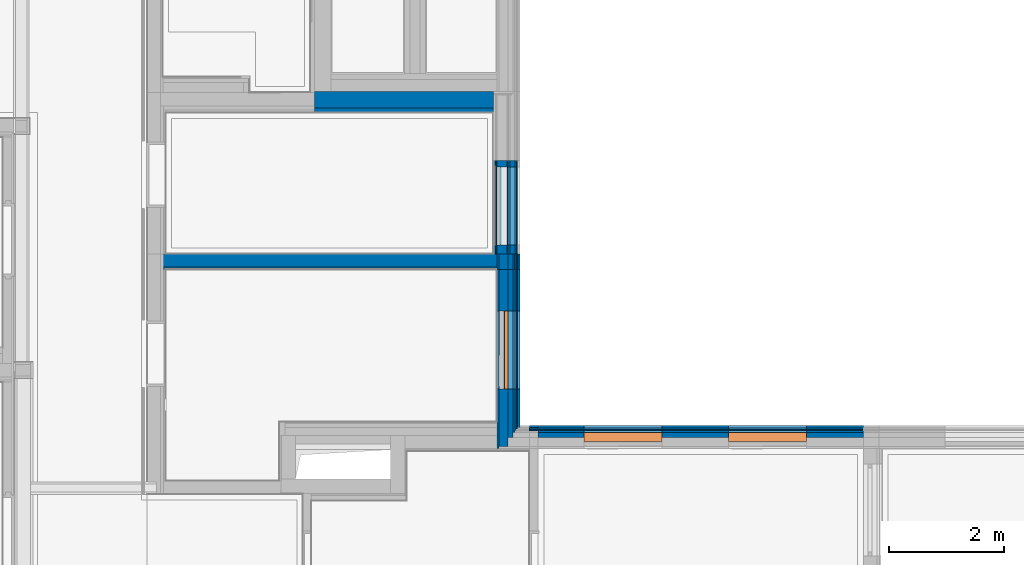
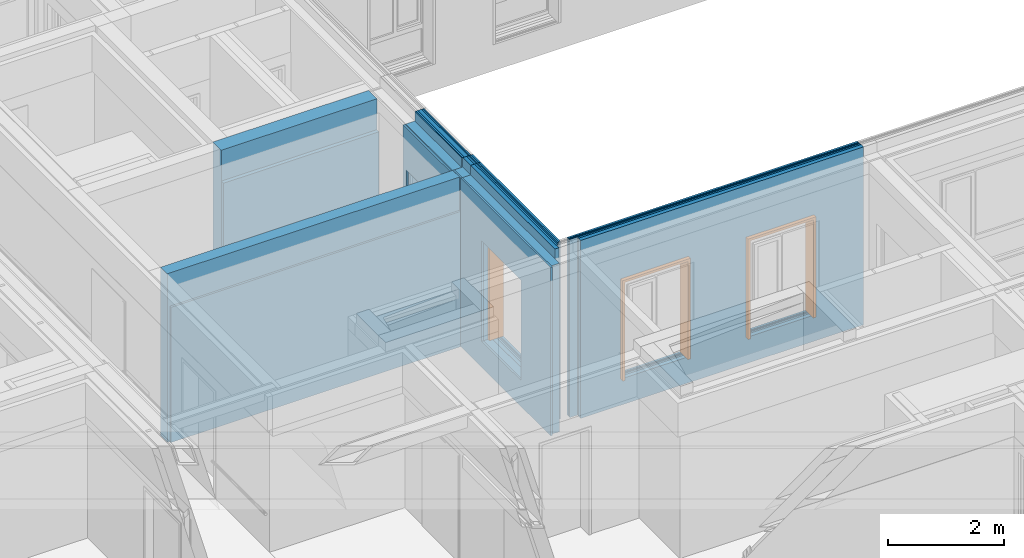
# One storey, part 28 of 222: 34 walls, 3 proxies, 25 openings.
"""IFC4 building model written with IfcOpenShell, lengths in metres."""

from ifc_helpers import new_model, entity, si_unit, converted_unit, derived_unit, frame, frame_2d, origin, origin_with_axes, place, context, subcontext, project, spatial, polyline, rectangle, outline, extrude, faceted_brep, material, element, fill, save


model = new_model("IFC4")

# Units and contexts
model_context = context("Model", 3, precision=1e-05, world=origin())
body_context = subcontext(model_context, "Body", "Model", "MODEL_VIEW")
ifc_project = project(units=[si_unit("LENGTHUNIT", "METRE"), si_unit("AREAUNIT", "SQUARE_METRE"), si_unit("VOLUMEUNIT", "CUBIC_METRE"), si_unit("MASSUNIT", "GRAM", prefix="KILO"), converted_unit("PLANEANGLEUNIT", "DEGREE", entity("IfcPlaneAngleMeasure", 0.0174532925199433), si_unit("PLANEANGLEUNIT", "RADIAN"), dimensions=[0, 0, 0, 0, 0, 0, 0]), derived_unit("THERMALTRANSMITTANCEUNIT", [(si_unit("POWERUNIT", "WATT"), 1), (si_unit("THERMODYNAMICTEMPERATUREUNIT", "KELVIN"), -1), (si_unit("LENGTHUNIT", "METRE"), -2)]), derived_unit("VOLUMETRICFLOWRATEUNIT", [(si_unit("LENGTHUNIT", "METRE"), 3), (converted_unit("TIMEUNIT", "hour", entity("IfcTimeMeasure", 3600.0), si_unit("TIMEUNIT", "SECOND"), dimensions=[0, 0, 1, 0, 0, 0, 0]), -1), (si_unit("LENGTHUNIT", "METRE"), -1)])], contexts=[model_context])

# Site, building, storey
site_placement = place(None, origin())
site = spatial("IfcSite", under=ifc_project, at=site_placement, Name="Psychiatrie Neubau Wunstorf", CompositionType="ELEMENT")
building_placement = place(site_placement, origin())
building = spatial("IfcBuilding", under=site, at=building_placement, Name="Neubau H2 Stationsgebäude", CompositionType="ELEMENT")
storey_placement = place(building_placement, frame((0.0, 0.0, 3.6)))
storey = spatial("IfcBuildingStorey", under=building, at=storey_placement, Name="H2 Ebene +1", CompositionType="ELEMENT", Elevation=3.6)

# Walls
ifc_material_1 = material(Name="WA-KL")
wall_1_placement = place(storey_placement, frame((44.5, 10.4259996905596, 0.0), z_axis=(0.0, 0.0, 1.0), x_axis=(1.0, 2.42531920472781e-14, 0.0)))
element("IfcWall", 1, at=wall_1_placement, inside=storey, material=ifc_material_1, Name="Konterlattung", context=body_context, shape_type="SweptSolid", body=[
    extrude(rectangle(XDim=0.15, YDim=0.024, at=frame_2d((0.075, 0.012), x_axis=(1.0, 0.0))), origin_with_axes(), (0.0, 0.0, 1.0), 3.75),
])
ifc_material_2 = material(Name="WA-TL")
wall_2_placement = place(storey_placement, frame((44.5, 10.4499996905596, 0.0), z_axis=(0.0, 0.0, 1.0), x_axis=(1.0, 2.42531920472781e-14, 0.0)))
element("IfcWall", 2, at=wall_2_placement, inside=storey, material=ifc_material_2, Name="Traglattung", context=body_context, shape_type="SweptSolid", body=[
    extrude(rectangle(XDim=0.15, YDim=0.024, at=frame_2d((0.075, 0.012), x_axis=(1.0, 0.0))), origin_with_axes(), (0.0, 0.0, 1.0), 3.75),
])
ifc_material_3 = material(Name="WA-HS")
wall_3_placement = place(storey_placement, frame((44.5, 10.4739996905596, 0.0), z_axis=(0.0, 0.0, 1.0), x_axis=(1.0, 2.42531920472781e-14, 0.0)))
element("IfcWall", 3, at=wall_3_placement, inside=storey, material=ifc_material_3, Name="Holzschindel", context=body_context, shape_type="SweptSolid", body=[
    extrude(rectangle(XDim=0.15, YDim=0.042, at=frame_2d((0.075, 0.021), x_axis=(1.0, 0.0))), origin_with_axes(), (0.0, 0.0, 1.0), 3.75),
])

# Wall, opening
ifc_material_4 = material(Name="WA-LB")
wall_4_placement = place(storey_placement, frame((43.9390000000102, 13.2174966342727, 0.0), z_axis=(0.0, 0.0, 1.0), x_axis=(2.34443846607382e-15, -1.0, 0.0)))
wall_4 = element("IfcWall", 4, at=wall_4_placement, inside=storey, material=ifc_material_4, context=body_context, shape_type="SweptSolid", body=[
    extrude(rectangle(XDim=3.10349694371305, YDim=0.036, at=frame_2d((1.55174847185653, 0.018), x_axis=(1.0, 0.0))), origin_with_axes(), (0.0, 0.0, 1.0), 3.55),
])
opening_1_placement = place(wall_4_placement, frame((2.07249694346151, 0.0360000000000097, 0.55), z_axis=(0.0, -1.0, 0.0), x_axis=(0.0, 0.0, 1.0)))
element("IfcOpeningElement", 5, at=opening_1_placement, cuts=wall_4, Name="Fensteröffnung", ObjectType="Opening", context=body_context, shape_type="SweptSolid", body=[
    extrude(outline(polyline([(2.115, 1.35), (2.115, 0.0), (0.0, 0.0), (0.0, 1.35), (2.115, 1.35)])), origin_with_axes(), (0.0, 0.0, 1.0), 0.036),
])

ifc_material_5 = material(Name="WA-DL")
wall_5_placement = place(storey_placement, frame((43.9750000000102, 13.2174966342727, 0.0), z_axis=(0.0, 0.0, 1.0), x_axis=(2.37195268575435e-15, -1.0, 0.0)))
wall_5 = element("IfcWall", 6, at=wall_5_placement, inside=storey, material=ifc_material_5, context=body_context, shape_type="SweptSolid", body=[
    extrude(rectangle(XDim=3.06749694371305, YDim=0.16, at=frame_2d((1.53374847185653, 0.08), x_axis=(1.0, 0.0))), origin_with_axes(), (0.0, 0.0, 1.0), 3.55),
])
opening_2_placement = place(wall_5_placement, frame((2.07249694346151, 0.16000000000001, 0.55), z_axis=(-2.8421709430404e-15, -1.0, 0.0), x_axis=(0.0, 0.0, 1.0)))
element("IfcOpeningElement", 7, at=opening_2_placement, cuts=wall_5, Name="Fensteröffnung", ObjectType="Opening", context=body_context, shape_type="SweptSolid", body=[
    extrude(outline(polyline([(2.115, 1.35), (2.115, 0.0), (0.0, 0.0), (0.0, 1.35), (2.115, 1.35)])), origin_with_axes(), (0.0, 0.0, 1.0), 0.16),
])

ifc_material_6 = material(Name="WA-DL")
wall_6_placement = place(storey_placement, frame((44.1350000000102, 13.2174966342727, 0.0), z_axis=(0.0, 0.0, 1.0), x_axis=(2.50248160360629e-15, -1.0, 0.0)))
wall_6 = element("IfcWall", 8, at=wall_6_placement, inside=storey, material=ifc_material_6, context=body_context, shape_type="SweptSolid", body=[
    extrude(rectangle(XDim=2.90749694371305, YDim=0.08, at=frame_2d((1.45374847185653, 0.04), x_axis=(1.0, 0.0))), origin_with_axes(), (0.0, 0.0, 1.0), 3.75),
])
opening_3_placement = place(wall_6_placement, frame((2.07249694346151, 0.0800000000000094, 0.55), z_axis=(0.0, -1.0, 0.0), x_axis=(0.0, 0.0, 1.0)))
element("IfcOpeningElement", 9, at=opening_3_placement, cuts=wall_6, Name="Fensteröffnung", ObjectType="Opening", context=body_context, shape_type="SweptSolid", body=[
    extrude(outline(polyline([(2.115, 1.35), (2.115, 0.0), (0.0, 0.0), (0.0, 1.35), (2.115, 1.35)])), origin_with_axes(), (0.0, 0.0, 1.0), 0.08),
])

ifc_material_7 = material(Name="WA-LB")
wall_7_placement = place(storey_placement, frame((44.2150000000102, 13.2174966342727, 0.0), z_axis=(0.0, 0.0, 1.0), x_axis=(2.5732857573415e-15, -1.0, 0.0)))
wall_7 = element("IfcWall", 10, at=wall_7_placement, inside=storey, material=ifc_material_7, context=body_context, shape_type="SweptSolid", body=[
    extrude(rectangle(XDim=2.82749694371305, YDim=0.036, at=frame_2d((1.41374847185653, 0.018), x_axis=(1.0, 0.0))), origin_with_axes(), (0.0, 0.0, 1.0), 3.75),
])
opening_4_placement = place(wall_7_placement, frame((2.07249694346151, 0.0360000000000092, 0.55), z_axis=(0.0, -1.0, 0.0), x_axis=(0.0, 0.0, 1.0)))
element("IfcOpeningElement", 11, at=opening_4_placement, cuts=wall_7, Name="Fensteröffnung", ObjectType="Opening", context=body_context, shape_type="SweptSolid", body=[
    extrude(outline(polyline([(2.115, 1.35), (2.115, 0.0), (0.0, 0.0), (0.0, 1.35), (2.115, 1.35)])), origin_with_axes(), (0.0, 0.0, 1.0), 0.036),
])

ifc_material_8 = material(Name="WA-KL")
wall_8_placement = place(storey_placement, frame((44.2510000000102, 13.2174966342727, 0.0), z_axis=(0.0, 0.0, 1.0), x_axis=(2.60647163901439e-15, -1.0, 0.0)))
wall_8 = element("IfcWall", 12, at=wall_8_placement, inside=storey, material=ifc_material_8, context=body_context, shape_type="SweptSolid", body=[
    extrude(rectangle(XDim=2.79149694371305, YDim=0.024, at=frame_2d((1.39574847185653, 0.012), x_axis=(1.0, 0.0))), origin_with_axes(), (0.0, 0.0, 1.0), 3.75),
])
opening_5_placement = place(wall_8_placement, frame((2.07249694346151, 0.0240000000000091, 0.55), z_axis=(0.0, -1.0, 0.0), x_axis=(0.0, 0.0, 1.0)))
element("IfcOpeningElement", 13, at=opening_5_placement, cuts=wall_8, Name="Fensteröffnung", ObjectType="Opening", context=body_context, shape_type="SweptSolid", body=[
    extrude(outline(polyline([(2.115, 1.35), (2.115, 0.0), (0.0, 0.0), (0.0, 1.35), (2.115, 1.35)])), origin_with_axes(), (0.0, 0.0, 1.0), 0.024),
])

ifc_material_9 = material(Name="WA-TL")
wall_9_placement = place(storey_placement, frame((44.2750000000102, 13.2174966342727, 0.0), z_axis=(0.0, 0.0, 1.0), x_axis=(2.62907521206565e-15, -1.0, 0.0)))
wall_9 = element("IfcWall", 14, at=wall_9_placement, inside=storey, material=ifc_material_9, context=body_context, shape_type="SweptSolid", body=[
    extrude(rectangle(XDim=2.76749694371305, YDim=0.024, at=frame_2d((1.38374847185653, 0.012), x_axis=(1.0, 0.0))), origin_with_axes(), (0.0, 0.0, 1.0), 3.75),
])
opening_6_placement = place(wall_9_placement, frame((2.07249694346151, 0.0240000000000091, 0.55), z_axis=(0.0, -1.0, 0.0), x_axis=(0.0, 0.0, 1.0)))
element("IfcOpeningElement", 15, at=opening_6_placement, cuts=wall_9, Name="Fensteröffnung", ObjectType="Opening", context=body_context, shape_type="SweptSolid", body=[
    extrude(outline(polyline([(2.115, 1.35), (2.115, 0.0), (0.0, 0.0), (0.0, 1.35), (2.115, 1.35)])), origin_with_axes(), (0.0, 0.0, 1.0), 0.024),
])

# Wall, opening, proxy
ifc_material_10 = material(Name="WA-HS")
wall_10_placement = place(storey_placement, frame((44.2990000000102, 13.2174966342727, 0.0), z_axis=(0.0, 0.0, 1.0), x_axis=(2.65207425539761e-15, -1.0, 0.0)))
wall_10 = element("IfcWall", 16, at=wall_10_placement, inside=storey, material=ifc_material_10, context=body_context, shape_type="SweptSolid", body=[
    extrude(rectangle(XDim=2.74349694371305, YDim=0.042, at=frame_2d((1.37174847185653, 0.021), x_axis=(1.0, 0.0))), origin_with_axes(), (0.0, 0.0, 1.0), 3.75),
])
opening_7_placement = place(wall_10_placement, frame((2.07249694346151, 0.0420000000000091, 0.55), z_axis=(0.0, -1.0, 0.0), x_axis=(0.0, 0.0, 1.0)))
opening_7 = element("IfcOpeningElement", 17, at=opening_7_placement, cuts=wall_10, Name="Fensteröffnung", ObjectType="Opening", context=body_context, shape_type="SweptSolid", body=[
    extrude(outline(polyline([(2.115, 1.35), (2.115, 0.0), (0.0, 0.0), (0.0, 1.35), (2.115, 1.35)])), origin_with_axes(), (0.0, 0.0, 1.0), 0.042),
])
ifc_material_11 = material(Name="WA-HS")
proxy_1_placement = place(opening_7_placement, frame((0.0, 0.0, 0.275000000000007)))
proxy_1 = element("IfcBuildingElementProxy", 18, at=proxy_1_placement, inside=storey, material=ifc_material_11, context=body_context, shape_type="Brep", body=[
    faceted_brep([(0.0, 0.0, -0.275000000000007), (0.0, 0.0, 0.0), (2.115, 0.0, 0.0), (2.115, 0.0, -0.275000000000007), (0.0, 0.05, 0.0), (0.0, 0.0500000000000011, -0.275000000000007), (2.065, 0.0500000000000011, -0.275000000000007), (2.065, 0.05, 0.0), (2.115, 1.35, 0.0), (2.115, 1.35, -0.275000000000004), (0.0, 1.35, -0.275000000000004), (0.0, 1.3, -0.275000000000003), (2.065, 1.3, -0.275000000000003), (2.065, 1.3, 0.0), (0.0, 1.3, 0.0), (0.0, 1.35, 0.0)], [[[0, 1, 2, 3]], [[4, 5, 6, 7]], [[0, 5, 4, 1]], [[3, 2, 8, 9]], [[6, 5, 0, 3, 9, 10, 11, 12]], [[13, 14, 15, 8, 2, 1, 4, 7]], [[7, 6, 12, 13]], [[11, 14, 13, 12]], [[15, 10, 9, 8]], [[11, 10, 15, 14]]], orient=[[False], [False], [False], [False], [False], [False], [False], [False], [False], [False]]),
])
fill(opening_7, proxy_1)

# Wall, opening
ifc_material_12 = material(Name="WA-LB")
wall_11_placement = place(storey_placement, frame((43.8800000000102, 15.1049996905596, 0.0), z_axis=(0.0, 0.0, 1.0), x_axis=(0.0, -1.0, 0.0)))
wall_11 = element("IfcWall", 19, at=wall_11_placement, inside=storey, material=ifc_material_12, Name="2x Gipsfaserplatte", context=body_context, shape_type="SweptSolid", body=[
    extrude(rectangle(XDim=1.6155030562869, YDim=0.036, at=frame_2d((0.80775152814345, 0.018), x_axis=(1.0, 0.0))), origin_with_axes(), (0.0, 0.0, 1.0), 3.55),
])
opening_8_placement = place(wall_11_placement, frame((1.46000029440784, 0.036, 0.55), z_axis=(0.0, -1.0, 0.0), x_axis=(0.0, 0.0, 1.0)))
element("IfcOpeningElement", 20, at=opening_8_placement, cuts=wall_11, Name="Fensteröffnung", ObjectType="Opening", context=body_context, shape_type="SweptSolid", body=[
    extrude(outline(polyline([(2.115, 1.35), (2.115, 0.0), (0.0, 0.0), (0.0, 1.35), (2.115, 1.35)])), origin_with_axes(), (0.0, 0.0, 1.0), 0.036),
])

ifc_material_13 = material(Name="WA-LB")
wall_12_placement = place(storey_placement, frame((43.9160000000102, 15.1049996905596, 0.0), z_axis=(0.0, 0.0, 1.0), x_axis=(0.0, -1.0, 0.0)))
wall_12 = element("IfcWall", 21, at=wall_12_placement, inside=storey, material=ifc_material_13, Name="2x Gipsfaserplatte", context=body_context, shape_type="SweptSolid", body=[
    extrude(rectangle(XDim=1.6155030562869, YDim=0.018, at=frame_2d((0.80775152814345, 0.009), x_axis=(1.0, 0.0))), origin_with_axes(), (0.0, 0.0, 1.0), 3.55),
])
opening_9_placement = place(wall_12_placement, frame((1.46000029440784, 0.018, 0.55), z_axis=(0.0, -1.0, 0.0), x_axis=(0.0, 0.0, 1.0)))
element("IfcOpeningElement", 22, at=opening_9_placement, cuts=wall_12, Name="Fensteröffnung", ObjectType="Opening", context=body_context, shape_type="SweptSolid", body=[
    extrude(outline(polyline([(2.115, 1.35), (2.115, 0.0), (0.0, 0.0), (0.0, 1.35), (2.115, 1.35)])), origin_with_axes(), (0.0, 0.0, 1.0), 0.018),
])

ifc_material_14 = material(Name="WA-DL")
wall_13_placement = place(storey_placement, frame((43.9340000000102, 15.1049996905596, 0.0), z_axis=(0.0, 0.0, 1.0), x_axis=(0.0, -1.0, 0.0)))
wall_13 = element("IfcWall", 23, at=wall_13_placement, inside=storey, material=ifc_material_14, Name="Holzständer + Zwischendämmung", context=body_context, shape_type="SweptSolid", body=[
    extrude(rectangle(XDim=1.6155030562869, YDim=0.18, at=frame_2d((0.80775152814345, 0.09), x_axis=(1.0, 0.0))), origin_with_axes(), (0.0, 0.0, 1.0), 3.55),
])
opening_10_placement = place(wall_13_placement, frame((1.46000029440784, 0.18, 0.55), z_axis=(0.0, -1.0, 0.0), x_axis=(0.0, 0.0, 1.0)))
element("IfcOpeningElement", 24, at=opening_10_placement, cuts=wall_13, Name="Fensteröffnung", ObjectType="Opening", context=body_context, shape_type="SweptSolid", body=[
    extrude(outline(polyline([(2.115, 1.35), (2.115, 0.0), (0.0, 0.0), (0.0, 1.35), (2.115, 1.35)])), origin_with_axes(), (0.0, 0.0, 1.0), 0.18),
])

ifc_material_15 = material(Name="WA-LB")
wall_14_placement = place(storey_placement, frame((44.1140000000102, 15.1049996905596, 0.0), z_axis=(0.0, 0.0, 1.0), x_axis=(0.0, -1.0, 0.0)))
wall_14 = element("IfcWall", 25, at=wall_14_placement, inside=storey, material=ifc_material_15, context=body_context, shape_type="SweptSolid", body=[
    extrude(rectangle(XDim=1.6155030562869, YDim=0.019, at=frame_2d((0.80775152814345, 0.0095), x_axis=(1.0, 0.0))), origin_with_axes(), (0.0, 0.0, 1.0), 3.75),
])
opening_11_placement = place(wall_14_placement, frame((1.46000029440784, 0.019, 0.55), z_axis=(0.0, -1.0, 0.0), x_axis=(0.0, 0.0, 1.0)))
element("IfcOpeningElement", 26, at=opening_11_placement, cuts=wall_14, Name="Fensteröffnung", ObjectType="Opening", context=body_context, shape_type="SweptSolid", body=[
    extrude(outline(polyline([(2.115, 1.35), (2.115, 0.0), (0.0, 0.0), (0.0, 1.35), (2.115, 1.35)])), origin_with_axes(), (0.0, 0.0, 1.0), 0.019),
])

ifc_material_16 = material(Name="WA-LB")
wall_15_placement = place(storey_placement, frame((44.1330000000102, 15.1049996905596, 0.0), z_axis=(0.0, 0.0, 1.0), x_axis=(0.0, -1.0, 0.0)))
wall_15 = element("IfcWall", 27, at=wall_15_placement, inside=storey, material=ifc_material_16, context=body_context, shape_type="SweptSolid", body=[
    extrude(rectangle(XDim=1.6155030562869, YDim=0.036, at=frame_2d((0.80775152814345, 0.018), x_axis=(1.0, 0.0))), origin_with_axes(), (0.0, 0.0, 1.0), 3.75),
])
opening_12_placement = place(wall_15_placement, frame((1.46000029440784, 0.036, 0.55), z_axis=(0.0, -1.0, 0.0), x_axis=(0.0, 0.0, 1.0)))
element("IfcOpeningElement", 28, at=opening_12_placement, cuts=wall_15, Name="Fensteröffnung", ObjectType="Opening", context=body_context, shape_type="SweptSolid", body=[
    extrude(outline(polyline([(2.115, 1.35), (2.115, 0.0), (0.0, 0.0), (0.0, 1.35), (2.115, 1.35)])), origin_with_axes(), (0.0, 0.0, 1.0), 0.036),
])

ifc_material_17 = material(Name="WA-DL")
wall_16_placement = place(storey_placement, frame((44.1690000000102, 15.1049996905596, 0.0), z_axis=(0.0, 0.0, 1.0), x_axis=(0.0, -1.0, 0.0)))
wall_16 = element("IfcWall", 29, at=wall_16_placement, inside=storey, material=ifc_material_17, Name="Staffel + Zwischendämmung", context=body_context, shape_type="SweptSolid", body=[
    extrude(rectangle(XDim=1.6155030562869, YDim=0.08, at=frame_2d((0.80775152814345, 0.04), x_axis=(1.0, 0.0))), origin_with_axes(), (0.0, 0.0, 1.0), 3.75),
])
opening_13_placement = place(wall_16_placement, frame((1.46000029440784, 0.08, 0.55), z_axis=(0.0, -1.0, 0.0), x_axis=(0.0, 0.0, 1.0)))
element("IfcOpeningElement", 30, at=opening_13_placement, cuts=wall_16, Name="Fensteröffnung", ObjectType="Opening", context=body_context, shape_type="SweptSolid", body=[
    extrude(outline(polyline([(2.115, 1.35), (2.115, 0.0), (0.0, 0.0), (0.0, 1.35), (2.115, 1.35)])), origin_with_axes(), (0.0, 0.0, 1.0), 0.08),
])

ifc_material_18 = material(Name="WA-KL")
wall_17_placement = place(storey_placement, frame((44.2490000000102, 15.1049996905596, 0.0), z_axis=(0.0, 0.0, 1.0), x_axis=(0.0, -1.0, 0.0)))
wall_17 = element("IfcWall", 31, at=wall_17_placement, inside=storey, material=ifc_material_18, Name="Konterlattung", context=body_context, shape_type="SweptSolid", body=[
    extrude(rectangle(XDim=1.6155030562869, YDim=0.025, at=frame_2d((0.80775152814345, 0.0125), x_axis=(1.0, 0.0))), origin_with_axes(), (0.0, 0.0, 1.0), 3.75),
])
opening_14_placement = place(wall_17_placement, frame((1.46000029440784, 0.025, 0.55), z_axis=(0.0, -1.0, 0.0), x_axis=(0.0, 0.0, 1.0)))
element("IfcOpeningElement", 32, at=opening_14_placement, cuts=wall_17, Name="Fensteröffnung", ObjectType="Opening", context=body_context, shape_type="SweptSolid", body=[
    extrude(outline(polyline([(2.115, 1.35), (2.115, 0.0), (0.0, 0.0), (0.0, 1.35), (2.115, 1.35)])), origin_with_axes(), (0.0, 0.0, 1.0), 0.025),
])

ifc_material_19 = material(Name="WA-TL")
wall_18_placement = place(storey_placement, frame((44.2740000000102, 15.1049996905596, 0.0), z_axis=(0.0, 0.0, 1.0), x_axis=(0.0, -1.0, 0.0)))
wall_18 = element("IfcWall", 33, at=wall_18_placement, inside=storey, material=ifc_material_19, Name="Traglattung", context=body_context, shape_type="SweptSolid", body=[
    extrude(rectangle(XDim=1.6155030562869, YDim=0.025, at=frame_2d((0.80775152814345, 0.0125), x_axis=(1.0, 0.0))), origin_with_axes(), (0.0, 0.0, 1.0), 3.75),
])
opening_15_placement = place(wall_18_placement, frame((1.46000029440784, 0.025, 0.55), z_axis=(0.0, -1.0, 0.0), x_axis=(0.0, 0.0, 1.0)))
element("IfcOpeningElement", 34, at=opening_15_placement, cuts=wall_18, Name="Fensteröffnung", ObjectType="Opening", context=body_context, shape_type="SweptSolid", body=[
    extrude(outline(polyline([(2.115, 1.35), (2.115, 0.0), (0.0, 0.0), (0.0, 1.35), (2.115, 1.35)])), origin_with_axes(), (0.0, 0.0, 1.0), 0.025),
])

# Walls
ifc_material_20 = material(Name="WA-LB")
wall_19_placement = place(storey_placement, frame((43.9390000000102, 13.4894966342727, 0.0), z_axis=(0.0, 0.0, 1.0), x_axis=(0.0, -1.0, 0.0)))
element("IfcWall", 35, at=wall_19_placement, inside=storey, material=ifc_material_20, Name="2x Gipsfaserplatte", context=body_context, shape_type="SweptSolid", body=[
    extrude(rectangle(XDim=0.272000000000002, YDim=0.036, at=frame_2d((0.136000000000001, 0.018), x_axis=(1.0, 0.0))), origin_with_axes(), (0.0, 0.0, 1.0), 3.55),
])
ifc_material_21 = material(Name="WA-DL")
wall_20_placement = place(storey_placement, frame((43.9750000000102, 13.4894966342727, 0.0), z_axis=(0.0, 0.0, 1.0), x_axis=(0.0, -1.0, 0.0)))
element("IfcWall", 36, at=wall_20_placement, inside=storey, material=ifc_material_21, Name="Holzständer + Zwischendämmung", context=body_context, shape_type="SweptSolid", body=[
    extrude(rectangle(XDim=0.272000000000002, YDim=0.16, at=frame_2d((0.136000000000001, 0.08), x_axis=(1.0, 0.0))), origin_with_axes(), (0.0, 0.0, 1.0), 3.55),
])
ifc_material_22 = material(Name="WA-DL")
wall_21_placement = place(storey_placement, frame((44.1350000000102, 13.4894966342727, 0.0), z_axis=(0.0, 0.0, 1.0), x_axis=(0.0, -1.0, 0.0)))
element("IfcWall", 37, at=wall_21_placement, inside=storey, material=ifc_material_22, Name="Staffel + Zwischendämmung", context=body_context, shape_type="SweptSolid", body=[
    extrude(rectangle(XDim=0.272000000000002, YDim=0.08, at=frame_2d((0.136000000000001, 0.04), x_axis=(1.0, 0.0))), origin_with_axes(), (0.0, 0.0, 1.0), 3.75),
])
ifc_material_23 = material(Name="WA-LB")
wall_22_placement = place(storey_placement, frame((44.2150000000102, 13.4894966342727, 0.0), z_axis=(0.0, 0.0, 1.0), x_axis=(0.0, -1.0, 0.0)))
element("IfcWall", 38, at=wall_22_placement, inside=storey, material=ifc_material_23, context=body_context, shape_type="SweptSolid", body=[
    extrude(rectangle(XDim=0.272000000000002, YDim=0.036, at=frame_2d((0.136000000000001, 0.018), x_axis=(1.0, 0.0))), origin_with_axes(), (0.0, 0.0, 1.0), 3.75),
])
ifc_material_24 = material(Name="WA-KL")
wall_23_placement = place(storey_placement, frame((44.2510000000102, 13.4894966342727, 0.0), z_axis=(0.0, 0.0, 1.0), x_axis=(0.0, -1.0, 0.0)))
element("IfcWall", 39, at=wall_23_placement, inside=storey, material=ifc_material_24, Name="Konterlattung", context=body_context, shape_type="SweptSolid", body=[
    extrude(rectangle(XDim=0.272000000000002, YDim=0.024, at=frame_2d((0.136000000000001, 0.012), x_axis=(1.0, 0.0))), origin_with_axes(), (0.0, 0.0, 1.0), 3.75),
])
ifc_material_25 = material(Name="WA-TL")
wall_24_placement = place(storey_placement, frame((44.2750000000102, 13.4894966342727, 0.0), z_axis=(0.0, 0.0, 1.0), x_axis=(0.0, -1.0, 0.0)))
element("IfcWall", 40, at=wall_24_placement, inside=storey, material=ifc_material_25, Name="Traglattung", context=body_context, shape_type="SweptSolid", body=[
    extrude(rectangle(XDim=0.272000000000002, YDim=0.024, at=frame_2d((0.136000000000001, 0.012), x_axis=(1.0, 0.0))), origin_with_axes(), (0.0, 0.0, 1.0), 3.75),
])
ifc_material_26 = material(Name="WA-HS")
wall_25_placement = place(storey_placement, frame((44.2990000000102, 13.4894966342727, 0.0), z_axis=(0.0, 0.0, 1.0), x_axis=(0.0, -1.0, 0.0)))
element("IfcWall", 41, at=wall_25_placement, inside=storey, material=ifc_material_26, Name="Holzschindel", context=body_context, shape_type="SweptSolid", body=[
    extrude(rectangle(XDim=0.272000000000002, YDim=0.042, at=frame_2d((0.136000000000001, 0.021), x_axis=(1.0, 0.0))), origin_with_axes(), (0.0, 0.0, 1.0), 3.75),
])

# Wall, openings
ifc_material_27 = material(Name="WA-DL")
wall_26_placement = place(storey_placement, frame((44.65, 10.3099996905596, 0.0), z_axis=(0.0, 0.0, 1.0), x_axis=(1.0, -3.22744748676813e-16, 0.0)))
wall_26 = element("IfcWall", 42, at=wall_26_placement, inside=storey, material=ifc_material_27, context=body_context, shape_type="SweptSolid", body=[
    extrude(rectangle(XDim=5.63600000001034, YDim=0.08, at=frame_2d((2.81800000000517, 0.04), x_axis=(1.0, 0.0))), origin_with_axes(), (0.0, 0.0, 1.0), 3.75),
])
opening_16_placement = place(wall_26_placement, frame((4.64867714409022, 0.079999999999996, 0.55), z_axis=(0.0, -1.0, 0.0), x_axis=(0.0, 0.0, 1.0)))
element("IfcOpeningElement", 43, at=opening_16_placement, cuts=wall_26, Name="Fensteröffnung", ObjectType="Opening", context=body_context, shape_type="SweptSolid", body=[
    extrude(outline(polyline([(2.115, 1.35), (2.115, 0.0), (0.0, 0.0), (0.0, 1.35), (2.115, 1.35)])), origin_with_axes(), (0.0, 0.0, 1.0), 0.08),
])
opening_17_placement = place(wall_26_placement, frame((2.14867714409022, 0.0800000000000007, 0.55), z_axis=(0.0, -1.0, 0.0), x_axis=(0.0, 0.0, 1.0)))
element("IfcOpeningElement", 44, at=opening_17_placement, cuts=wall_26, Name="Fensteröffnung", ObjectType="Opening", context=body_context, shape_type="SweptSolid", body=[
    extrude(outline(polyline([(2.115, 1.35), (2.115, 0.0), (0.0, 0.0), (0.0, 1.35), (2.115, 1.35)])), origin_with_axes(), (0.0, 0.0, 1.0), 0.08),
])

ifc_material_28 = material(Name="WA-LB")
wall_27_placement = place(storey_placement, frame((44.65, 10.3899996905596, 0.0), z_axis=(0.0, 0.0, 1.0), x_axis=(1.0, -3.22744748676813e-16, 0.0)))
wall_27 = element("IfcWall", 45, at=wall_27_placement, inside=storey, material=ifc_material_28, context=body_context, shape_type="SweptSolid", body=[
    extrude(rectangle(XDim=5.63600000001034, YDim=0.036, at=frame_2d((2.81800000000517, 0.018), x_axis=(1.0, 0.0))), origin_with_axes(), (0.0, 0.0, 1.0), 3.75),
])
opening_18_placement = place(wall_27_placement, frame((4.64867714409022, 0.035999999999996, 0.55), z_axis=(0.0, -1.0, 0.0), x_axis=(0.0, 0.0, 1.0)))
element("IfcOpeningElement", 46, at=opening_18_placement, cuts=wall_27, Name="Fensteröffnung", ObjectType="Opening", context=body_context, shape_type="SweptSolid", body=[
    extrude(outline(polyline([(2.115, 1.35), (2.115, 0.0), (0.0, 0.0), (0.0, 1.35), (2.115, 1.35)])), origin_with_axes(), (0.0, 0.0, 1.0), 0.036),
])
opening_19_placement = place(wall_27_placement, frame((2.14867714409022, 0.0360000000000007, 0.55), z_axis=(0.0, -1.0, 0.0), x_axis=(0.0, 0.0, 1.0)))
element("IfcOpeningElement", 47, at=opening_19_placement, cuts=wall_27, Name="Fensteröffnung", ObjectType="Opening", context=body_context, shape_type="SweptSolid", body=[
    extrude(outline(polyline([(2.115, 1.35), (2.115, 0.0), (0.0, 0.0), (0.0, 1.35), (2.115, 1.35)])), origin_with_axes(), (0.0, 0.0, 1.0), 0.036),
])

ifc_material_29 = material(Name="WA-KL")
wall_28_placement = place(storey_placement, frame((44.65, 10.4259996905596, 0.0), z_axis=(0.0, 0.0, 1.0), x_axis=(1.0, -3.22744748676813e-16, 0.0)))
wall_28 = element("IfcWall", 48, at=wall_28_placement, inside=storey, material=ifc_material_29, context=body_context, shape_type="SweptSolid", body=[
    extrude(rectangle(XDim=5.63600000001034, YDim=0.024, at=frame_2d((2.81800000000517, 0.012), x_axis=(1.0, 0.0))), origin_with_axes(), (0.0, 0.0, 1.0), 3.75),
])
opening_20_placement = place(wall_28_placement, frame((4.64867714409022, 0.023999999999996, 0.55), z_axis=(0.0, -1.0, 0.0), x_axis=(0.0, 0.0, 1.0)))
element("IfcOpeningElement", 49, at=opening_20_placement, cuts=wall_28, Name="Fensteröffnung", ObjectType="Opening", context=body_context, shape_type="SweptSolid", body=[
    extrude(outline(polyline([(2.115, 1.35), (2.115, 0.0), (0.0, 0.0), (0.0, 1.35), (2.115, 1.35)])), origin_with_axes(), (0.0, 0.0, 1.0), 0.024),
])
opening_21_placement = place(wall_28_placement, frame((2.14867714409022, 0.0240000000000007, 0.55), z_axis=(0.0, -1.0, 0.0), x_axis=(0.0, 0.0, 1.0)))
element("IfcOpeningElement", 50, at=opening_21_placement, cuts=wall_28, Name="Fensteröffnung", ObjectType="Opening", context=body_context, shape_type="SweptSolid", body=[
    extrude(outline(polyline([(2.115, 1.35), (2.115, 0.0), (0.0, 0.0), (0.0, 1.35), (2.115, 1.35)])), origin_with_axes(), (0.0, 0.0, 1.0), 0.024),
])

ifc_material_30 = material(Name="WA-TL")
wall_29_placement = place(storey_placement, frame((44.65, 10.4499996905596, 0.0), z_axis=(0.0, 0.0, 1.0), x_axis=(1.0, -3.22744748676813e-16, 0.0)))
wall_29 = element("IfcWall", 51, at=wall_29_placement, inside=storey, material=ifc_material_30, context=body_context, shape_type="SweptSolid", body=[
    extrude(rectangle(XDim=5.63600000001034, YDim=0.024, at=frame_2d((2.81800000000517, 0.012), x_axis=(1.0, 0.0))), origin_with_axes(), (0.0, 0.0, 1.0), 3.75),
])
opening_22_placement = place(wall_29_placement, frame((4.64867714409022, 0.023999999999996, 0.55), z_axis=(0.0, -1.0, 0.0), x_axis=(0.0, 0.0, 1.0)))
element("IfcOpeningElement", 52, at=opening_22_placement, cuts=wall_29, Name="Fensteröffnung", ObjectType="Opening", context=body_context, shape_type="SweptSolid", body=[
    extrude(outline(polyline([(2.115, 1.35), (2.115, 0.0), (0.0, 0.0), (0.0, 1.35), (2.115, 1.35)])), origin_with_axes(), (0.0, 0.0, 1.0), 0.024),
])
opening_23_placement = place(wall_29_placement, frame((2.14867714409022, 0.0240000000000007, 0.55), z_axis=(0.0, -1.0, 0.0), x_axis=(0.0, 0.0, 1.0)))
element("IfcOpeningElement", 53, at=opening_23_placement, cuts=wall_29, Name="Fensteröffnung", ObjectType="Opening", context=body_context, shape_type="SweptSolid", body=[
    extrude(outline(polyline([(2.115, 1.35), (2.115, 0.0), (0.0, 0.0), (0.0, 1.35), (2.115, 1.35)])), origin_with_axes(), (0.0, 0.0, 1.0), 0.024),
])

# Wall, openings, proxies
ifc_material_31 = material(Name="WA-HS")
wall_30_placement = place(storey_placement, frame((44.65, 10.4739996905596, 0.0), z_axis=(0.0, 0.0, 1.0), x_axis=(1.0, -3.22744748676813e-16, 0.0)))
wall_30 = element("IfcWall", 54, at=wall_30_placement, inside=storey, material=ifc_material_31, context=body_context, shape_type="SweptSolid", body=[
    extrude(rectangle(XDim=5.63600000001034, YDim=0.042, at=frame_2d((2.81800000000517, 0.021), x_axis=(1.0, 0.0))), origin_with_axes(), (0.0, 0.0, 1.0), 3.75),
])
opening_24_placement = place(wall_30_placement, frame((4.64867714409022, 0.041999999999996, 0.55), z_axis=(0.0, -1.0, 0.0), x_axis=(0.0, 0.0, 1.0)))
opening_24 = element("IfcOpeningElement", 55, at=opening_24_placement, cuts=wall_30, Name="Fensteröffnung", ObjectType="Opening", context=body_context, shape_type="SweptSolid", body=[
    extrude(outline(polyline([(2.115, 1.35), (2.115, 0.0), (0.0, 0.0), (0.0, 1.35), (2.115, 1.35)])), origin_with_axes(), (0.0, 0.0, 1.0), 0.042),
])
opening_25_placement = place(wall_30_placement, frame((2.14867714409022, 0.0420000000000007, 0.55), z_axis=(0.0, -1.0, 0.0), x_axis=(0.0, 0.0, 1.0)))
opening_25 = element("IfcOpeningElement", 56, at=opening_25_placement, cuts=wall_30, Name="Fensteröffnung", ObjectType="Opening", context=body_context, shape_type="SweptSolid", body=[
    extrude(outline(polyline([(2.115, 1.35), (2.115, 0.0), (0.0, 0.0), (0.0, 1.35), (2.115, 1.35)])), origin_with_axes(), (0.0, 0.0, 1.0), 0.042),
])
ifc_material_32 = material(Name="WA-HS")
proxy_2_placement = place(opening_24_placement, frame((0.0, 1.35, 0.275)))
proxy_2 = element("IfcBuildingElementProxy", 57, at=proxy_2_placement, inside=storey, material=ifc_material_32, context=body_context, shape_type="Brep", body=[
    faceted_brep([(0.0, 0.0, 0.0), (0.0, 0.0, -0.275), (2.115, 0.0, -0.275), (2.115, 0.0, 0.0), (2.115, -1.35, -0.275), (2.115, -1.35, 0.0), (0.0, -0.0499999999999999, -0.275), (0.0, -0.05, 0.0), (0.0, -1.35, 0.0), (0.0, -1.3, 0.0), (2.065, -1.3, 0.0), (2.065, -0.05, 0.0), (2.065, -0.0499999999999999, -0.275), (2.065, -1.3, -0.275), (0.0, -1.3, -0.275), (0.0, -1.35, -0.275)], [[[0, 1, 2, 3]], [[2, 4, 5, 3]], [[6, 1, 0, 7]], [[7, 0, 3, 5, 8, 9, 10, 11]], [[1, 6, 12, 13, 14, 15, 4, 2]], [[6, 7, 11, 12]], [[15, 8, 5, 4]], [[15, 14, 9, 8]], [[9, 14, 13, 10]], [[10, 13, 12, 11]]], orient=[[False], [False], [False], [False], [False], [False], [False], [False], [False], [False]]),
])
fill(opening_24, proxy_2)
ifc_material_33 = material(Name="WA-HS")
proxy_3_placement = place(opening_25_placement, frame((0.0, 1.35, 0.275)))
proxy_3 = element("IfcBuildingElementProxy", 58, at=proxy_3_placement, inside=storey, material=ifc_material_33, context=body_context, shape_type="Brep", body=[
    faceted_brep([(0.0, 0.0, 0.0), (0.0, 0.0, -0.275), (2.115, 0.0, -0.275), (2.115, 0.0, 0.0), (2.115, -1.35, -0.275), (2.115, -1.35, 0.0), (0.0, -0.0499999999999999, -0.275), (0.0, -0.05, 0.0), (0.0, -1.35, 0.0), (0.0, -1.3, 0.0), (2.065, -1.3, 0.0), (2.065, -0.05, 0.0), (2.065, -0.0499999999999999, -0.275), (2.065, -1.3, -0.275), (0.0, -1.3, -0.275), (0.0, -1.35, -0.275)], [[[0, 1, 2, 3]], [[2, 4, 5, 3]], [[6, 1, 0, 7]], [[7, 0, 3, 5, 8, 9, 10, 11]], [[1, 6, 12, 13, 14, 15, 4, 2]], [[6, 7, 11, 12]], [[15, 8, 5, 4]], [[15, 14, 9, 8]], [[9, 14, 13, 10]], [[10, 13, 12, 11]]], orient=[[False], [False], [False], [False], [False], [False], [False], [False], [False], [False]]),
])
fill(opening_25, proxy_3)

# Walls
ifc_material_34 = material(Name="WI-HW 60")
wall_31_placement = place(storey_placement, frame((43.9390000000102, 13.4894966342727, 0.0), z_axis=(0.0, 0.0, 1.0), x_axis=(-1.0, -3.12272858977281e-16, 0.0)))
element("IfcWall", 59, at=wall_31_placement, inside=storey, material=ifc_material_34, context=body_context, shape_type="SweptSolid", body=[
    extrude(rectangle(XDim=5.82500000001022, YDim=0.231999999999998, at=frame_2d((2.91250000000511, 0.115999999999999), x_axis=(1.0, 0.0))), origin_with_axes(), (0.0, 0.0, 1.0), 3.55),
])
ifc_material_35 = material(Name="WI-LB")
wall_32_placement = place(storey_placement, frame((43.9390000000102, 13.2574966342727, 0.0), z_axis=(0.0, 0.0, 1.0), x_axis=(-1.0, -3.14976520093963e-16, 0.0)))
element("IfcWall", 60, at=wall_32_placement, inside=storey, material=ifc_material_35, context=body_context, shape_type="SweptSolid", body=[
    extrude(rectangle(XDim=5.77500000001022, YDim=0.04, at=frame_2d((2.88750000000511, 0.02), x_axis=(1.0, 0.0))), origin_with_axes(), (0.0, 0.0, 1.0), 2.85),
])
ifc_material_36 = material(Name="WI-LB")
wall_33_placement = place(storey_placement, frame((40.7790000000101, 15.9355060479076, 0.0)))
element("IfcWall", 61, at=wall_33_placement, inside=storey, material=ifc_material_36, context=body_context, shape_type="SweptSolid", body=[
    extrude(rectangle(XDim=3.10100000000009, YDim=0.075, at=frame_2d((1.55050000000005, 0.0375), x_axis=(1.0, 0.0))), origin_with_axes(), (0.0, 0.0, 1.0), 2.9),
])
ifc_material_37 = material(Name="WI-HW 60")
wall_34_placement = place(storey_placement, frame((40.7790000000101, 16.0105060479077, 0.0)))
element("IfcWall", 62, at=wall_34_placement, inside=storey, material=ifc_material_37, context=body_context, shape_type="SweptSolid", body=[
    extrude(rectangle(XDim=3.10100000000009, YDim=0.29, at=frame_2d((1.55050000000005, 0.145), x_axis=(1.0, 0.0))), origin_with_axes(), (0.0, 0.0, 1.0), 3.55),
])

save(model, "model.ifc")
